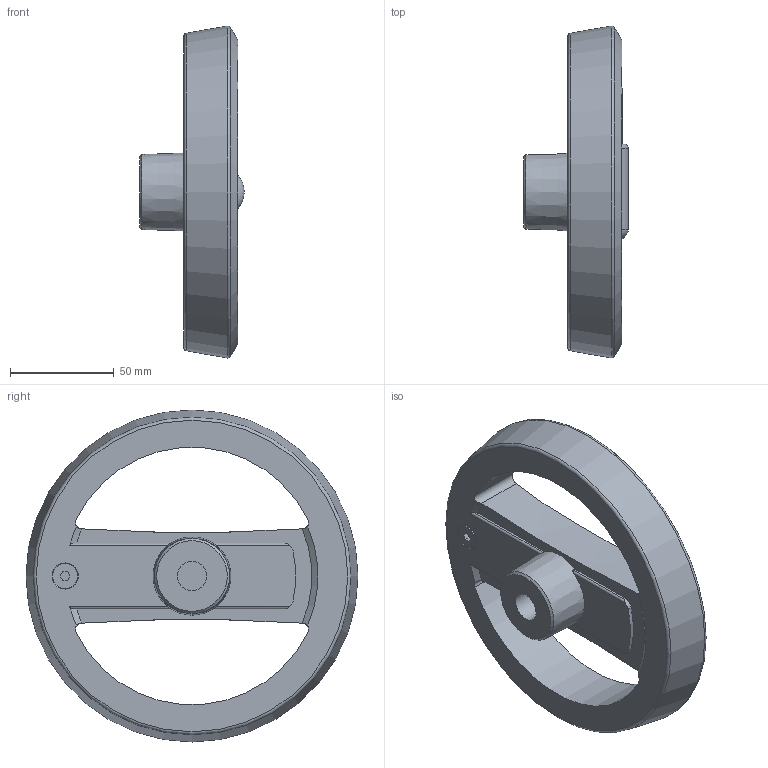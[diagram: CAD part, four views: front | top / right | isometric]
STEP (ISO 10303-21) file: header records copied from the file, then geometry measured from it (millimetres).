
FILE_DESCRIPTION( ( 'STEP AP203' ), '1' );
FILE_NAME( 'C:/Temp/Ganter_Step_05_03_2020/data/1_3/gn_924_3/gn_924_3_b/Handwheel with retractable handle GN 924.3-160-B14-R-SR (unactivated).stp', '2020-03-05T10:40:54', ( 'License CC BY-ND 4.0' ), ( 'CADENAS' ), ' ', 'PARTsolutions', ' ' );
FILE_SCHEMA( ( 'CONFIG_CONTROL_DESIGN' ) );
Length unit declared in the file: millimetre
Products named in the file (3): Handwheel with retractable handle GN 924.3-160-B14-R-SR (unactivated); _Umleggriff-Handrad GN 924.3-160-B14-R-SR-1; _Umleggriff-Handrad GN 924.3-160-B14-R-SR-2
Assembly tree (2 placements, depth 2):
  Handwheel with retractable handle GN 924.3-160-B14-R-SR (unactivated)
    _Umleggriff-Handrad GN 924.3-160-B14-R-SR-1
    _Umleggriff-Handrad GN 924.3-160-B14-R-SR-2
Bounding box: 50.2 x 159.68 x 159.68 mm (x, y, z)
Volume: 293532.6 mm3; surface area: 65471.9 mm2
Topology: 2 solids, 2 shells, 108 faces, 280 edges, 180 vertices
Faces by surface type: plane 46, cylinder 41, cone 12, torus 7, sphere 2
Full cylindrical faces by diameter (mm): 4 x4, 5 x1, 10 x1, 12 x1, 14 x1, 18.5 x1, 24 x1, 25 x1, 25.6 x1
Entity records: 3560 total; most frequent: CARTESIAN_POINT 951, DIRECTION 522, ORIENTED_EDGE 488, EDGE_CURVE 244, AXIS2_PLACEMENT_3D 212, VERTEX_POINT 175, EDGE_LOOP 148, FACE_OUTER_BOUND 127
